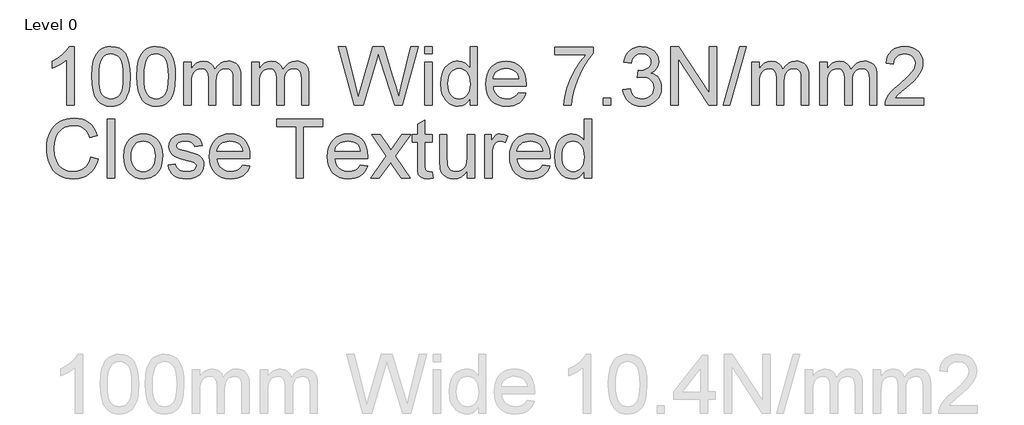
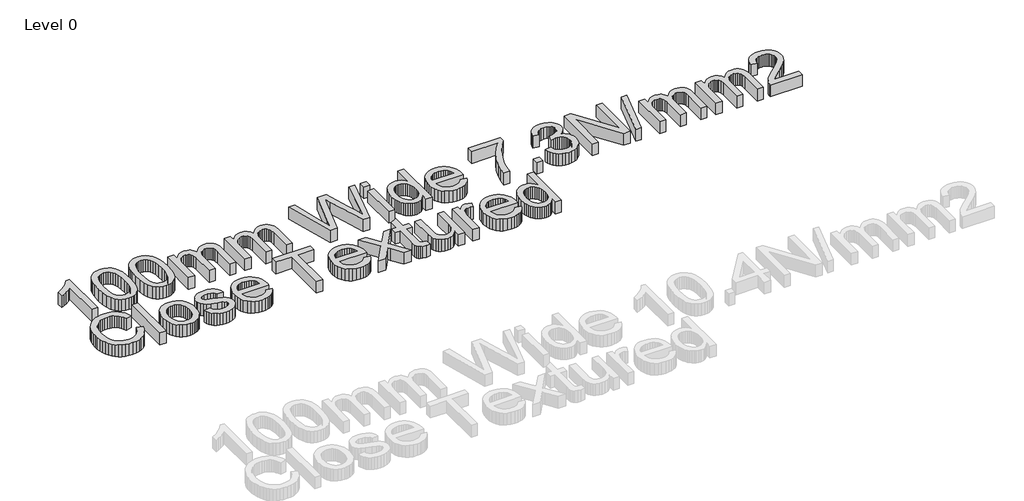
# One storey, part 3 of 14: 1 proxy.
"""IFC4 building model written with IfcOpenShell, lengths in millimetres."""

from ifc_helpers import new_model, si_unit, origin, origin_with_axes, place, context, project, spatial, polyline, outline, extrude, element, save

model = new_model("IFC4")

# Units and contexts
model_context = context("Model", 3, world=origin())
ifc_project = project(units=[si_unit("LENGTHUNIT", "METRE", prefix="MILLI")], contexts=[model_context])

# Site, building, storey
site = spatial("IfcSite", under=ifc_project)
building = spatial("IfcBuilding", under=site)
storey = spatial("IfcBuildingStorey", under=building, Name="Level 0", Elevation=0.0)

# Proxy
placement = place(None, origin())
element("IfcBuildingElementProxy", 1, Name="600mm Arial", ObjectType="600mm Arial", at=placement, inside=storey, context=model_context, shape_type="SweptSolid", body=[
    extrude(outline(polyline([(-37639.3637004, 9260.7463164), (-37713.2098543, 9260.7463164), (-37713.2098543, 9721.1309318), (-37744.0391812, 9696.1970376), (-37783.1617774, 9671.2992011), (-37824.2314889, 9649.5383838), (-37860.902162, 9634.0155472), (-37860.902162, 9703.8232395), (-37802.9033639, 9735.3737203), (-37752.6569697, 9772.909778), (-37713.0475947, 9812.8256434), (-37686.9598543, 9851.5155472), (-37639.3637004, 9851.5155472), (-37639.3637004, 9260.7463164)])), origin_with_axes(), (0.0, 0.0, 1.0), 150.0),
    extrude(outline(polyline([(-37463.979085, 9551.3713164), (-37458.5524024, 9645.9326145), (-37451.769049, 9686.0332756), (-37442.2723543, 9721.347278), (-37430.1028831, 9752.1630833), (-37415.3012004, 9778.769153), (-37397.8673062, 9801.1654871), (-37377.8012004, 9819.3520857), (-37355.0352749, 9833.4236001), (-37329.5019216, 9843.4746818), (-37301.2011403, 9849.5053309), (-37270.1329312, 9851.5155472), (-37224.6281235, 9846.7559318), (-37183.8829312, 9832.4770857), (-37149.808412, 9809.237903), (-37124.3156235, 9777.597278), (-37105.0608158, 9737.8256434), (-37089.7002389, 9690.1934318), (-37079.6401427, 9629.706653), (-37076.2867774, 9551.3713164), (-37081.6593735, 9457.3508838), (-37088.3751187, 9417.385439), (-37097.777162, 9382.1165088), (-37109.8519817, 9351.2871818), (-37124.5860562, 9324.6405472), (-37141.9793855, 9302.1766049), (-37162.0319697, 9283.8953549), (-37184.8249384, 9269.729189), (-37210.4394216, 9259.6104991), (-37238.8754192, 9253.5392852), (-37270.1329312, 9251.5155472), (-37310.8060081, 9255.0311722), (-37346.8637004, 9265.5780472), (-37378.3060081, 9283.1561722), (-37405.1329312, 9307.7655472), (-37430.8781235, 9352.2517251), (-37449.2675466, 9407.6814126), (-37460.3012004, 9474.0546097), (-37463.979085, 9551.3713164)]), holes=[polyline([(-37390.1329312, 9551.5155472), (-37387.9694697, 9487.3193333), (-37381.479085, 9435.3556914), (-37370.6617774, 9395.6246217), (-37355.5175466, 9368.1261241), (-37337.2002389, 9349.416689), (-37316.8637004, 9336.0528068), (-37294.5079312, 9328.0344775), (-37270.1329312, 9325.3617011), (-37245.7579312, 9328.0434919), (-37223.402162, 9336.0888645), (-37203.0656235, 9349.4978188), (-37184.7483158, 9368.2703549), (-37169.604085, 9395.8139246), (-37158.7867774, 9435.5359799), (-37152.2963927, 9487.4365208), (-37150.1329312, 9551.5155472), (-37152.2242774, 9614.0125424), (-37158.4983158, 9665.0612203), (-37168.9550466, 9704.6615809), (-37183.5944697, 9732.8136241), (-37201.605287, 9752.4380232), (-37222.1762004, 9766.4554511), (-37245.30721, 9774.8659078), (-37270.9983158, 9777.6693934), (-37295.2471139, 9775.1994414), (-37317.2242774, 9767.7895857), (-37336.9298062, 9755.4398261), (-37354.3637004, 9738.1501626), (-37370.0127389, 9707.5011241), (-37381.1906235, 9666.1790088), (-37387.8973543, 9614.1838164), (-37390.1329312, 9551.5155472)])]), origin_with_axes(), (0.0, 0.0, 1.0), 150.0),
    extrude(outline(polyline([(-37011.6713927, 9551.3713164), (-37006.24471, 9645.9326145), (-36999.4613567, 9686.0332756), (-36989.964662, 9721.347278), (-36977.7951908, 9752.1630833), (-36962.9935081, 9778.769153), (-36945.5596139, 9801.1654871), (-36925.4935081, 9819.3520857), (-36902.7275826, 9833.4236001), (-36877.1942293, 9843.4746818), (-36848.893448, 9849.5053309), (-36817.8252389, 9851.5155472), (-36772.3204312, 9846.7559318), (-36731.5752389, 9832.4770857), (-36697.5007197, 9809.237903), (-36672.0079312, 9777.597278), (-36652.7531235, 9737.8256434), (-36637.3925466, 9690.1934318), (-36627.3324504, 9629.706653), (-36623.979085, 9551.3713164), (-36629.3516812, 9457.3508838), (-36636.0674264, 9417.385439), (-36645.4694697, 9382.1165088), (-36657.5442894, 9351.2871818), (-36672.2783639, 9324.6405472), (-36689.6716932, 9302.1766049), (-36709.7242774, 9283.8953549), (-36732.5172461, 9269.729189), (-36758.1317293, 9259.6104991), (-36786.5677269, 9253.5392852), (-36817.8252389, 9251.5155472), (-36858.4983158, 9255.0311722), (-36894.5560081, 9265.5780472), (-36925.9983158, 9283.1561722), (-36952.8252389, 9307.7655472), (-36978.5704312, 9352.2517251), (-36996.9598543, 9407.6814126), (-37007.9935081, 9474.0546097), (-37011.6713927, 9551.3713164)]), holes=[polyline([(-36937.8252389, 9551.5155472), (-36935.6617774, 9487.3193333), (-36929.1713927, 9435.3556914), (-36918.354085, 9395.6246217), (-36903.2098543, 9368.1261241), (-36884.8925466, 9349.416689), (-36864.5560081, 9336.0528068), (-36842.2002389, 9328.0344775), (-36817.8252389, 9325.3617011), (-36793.4502389, 9328.0434919), (-36771.0944697, 9336.0888645), (-36750.7579312, 9349.4978188), (-36732.4406235, 9368.2703549), (-36717.2963927, 9395.8139246), (-36706.479085, 9435.5359799), (-36699.9887004, 9487.4365208), (-36697.8252389, 9551.5155472), (-36699.916585, 9614.0125424), (-36706.1906235, 9665.0612203), (-36716.6473543, 9704.6615809), (-36731.2867774, 9732.8136241), (-36749.2975947, 9752.4380232), (-36769.8685081, 9766.4554511), (-36792.9995177, 9774.8659078), (-36818.6906235, 9777.6693934), (-36842.9394216, 9775.1994414), (-36864.916585, 9767.7895857), (-36884.6221139, 9755.4398261), (-36902.0560081, 9738.1501626), (-36917.7050466, 9707.5011241), (-36928.8829312, 9666.1790088), (-36935.589662, 9614.1838164), (-36937.8252389, 9551.5155472)])]), origin_with_axes(), (0.0, 0.0, 1.0), 150.0),
    extrude(outline(polyline([(-36540.902162, 9260.7463164), (-36540.902162, 9694.5924703), (-36467.0560081, 9694.5924703), (-36467.0560081, 9623.1982395), (-36444.8444697, 9655.9927107), (-36416.2867774, 9681.6838164), (-36382.3564889, 9698.2883838), (-36344.027162, 9703.8232395), (-36302.9574504, 9698.1802107), (-36285.4784841, 9691.1264246), (-36270.0367774, 9681.2511241), (-36245.4454312, 9654.1537684), (-36229.3637004, 9618.0059318), (-36202.4466331, 9655.5510039), (-36171.7435081, 9682.3689126), (-36137.2543254, 9698.4596578), (-36098.979085, 9703.8232395), (-36069.4162846, 9701.5921698), (-36043.4682677, 9694.8989607), (-36021.1350346, 9683.7436121), (-36002.416585, 9668.1261241), (-35987.6194096, 9647.8662083), (-35977.0499985, 9622.7835761), (-35970.7083519, 9592.8782275), (-35968.5944697, 9558.1501626), (-35968.5944697, 9260.7463164), (-36042.4406235, 9260.7463164), (-36042.4406235, 9526.4193934), (-36044.1533639, 9563.2523261), (-36049.291585, 9588.0780472), (-36058.9189889, 9605.0792491), (-36074.0992774, 9618.4386241), (-36093.6245177, 9627.0924703), (-36116.2867774, 9629.9770857), (-36137.2137605, 9628.1291289), (-36156.292787, 9622.5852588), (-36173.5238567, 9613.3454751), (-36188.9069697, 9600.409778), (-36201.5587124, 9583.3995616), (-36210.5956716, 9561.9362203), (-36216.0178471, 9536.0197539), (-36217.8252389, 9505.6501626), (-36217.8252389, 9260.7463164), (-36291.6713927, 9260.7463164), (-36291.6713927, 9534.6405472), (-36295.9442293, 9576.3953549), (-36308.7627389, 9606.1790088), (-36318.6740971, 9616.5906674), (-36331.3168254, 9624.0275664), (-36346.690924, 9628.4897059), (-36364.7963927, 9629.9770857), (-36393.245912, 9626.0107395), (-36419.4598543, 9614.1117011), (-36441.0944697, 9594.5684318), (-36455.8060081, 9567.6693934), (-36464.2435081, 9530.3496818), (-36467.0560081, 9479.5443934), (-36467.0560081, 9260.7463164), (-36540.902162, 9260.7463164)])), origin_with_axes(), (0.0, 0.0, 1.0), 150.0),
    extrude(outline(polyline([(-35857.8252389, 9260.7463164), (-35857.8252389, 9694.5924703), (-35783.979085, 9694.5924703), (-35783.979085, 9623.1982395), (-35761.7675466, 9655.9927107), (-35733.2098543, 9681.6838164), (-35699.2795658, 9698.2883838), (-35660.9502389, 9703.8232395), (-35619.8805274, 9698.1802107), (-35602.401561, 9691.1264246), (-35586.9598543, 9681.2511241), (-35562.3685081, 9654.1537684), (-35546.2867774, 9618.0059318), (-35519.36971, 9655.5510039), (-35488.666585, 9682.3689126), (-35454.1774024, 9698.4596578), (-35415.902162, 9703.8232395), (-35386.3393615, 9701.5921698), (-35360.3913447, 9694.8989607), (-35338.0581115, 9683.7436121), (-35319.339662, 9668.1261241), (-35304.5424865, 9647.8662083), (-35293.9730754, 9622.7835761), (-35287.6314288, 9592.8782275), (-35285.5175466, 9558.1501626), (-35285.5175466, 9260.7463164), (-35359.3637004, 9260.7463164), (-35359.3637004, 9526.4193934), (-35361.0764408, 9563.2523261), (-35366.214662, 9588.0780472), (-35375.8420658, 9605.0792491), (-35391.0223543, 9618.4386241), (-35410.5475947, 9627.0924703), (-35433.2098543, 9629.9770857), (-35454.1368374, 9628.1291289), (-35473.2158639, 9622.5852588), (-35490.4469336, 9613.3454751), (-35505.8300466, 9600.409778), (-35518.4817894, 9583.3995616), (-35527.5187485, 9561.9362203), (-35532.940924, 9536.0197539), (-35534.7483158, 9505.6501626), (-35534.7483158, 9260.7463164), (-35608.5944697, 9260.7463164), (-35608.5944697, 9534.6405472), (-35612.8673062, 9576.3953549), (-35625.6858158, 9606.1790088), (-35635.597174, 9616.5906674), (-35648.2399024, 9624.0275664), (-35663.6140009, 9628.4897059), (-35681.7194697, 9629.9770857), (-35710.1689889, 9626.0107395), (-35736.3829312, 9614.1117011), (-35758.0175466, 9594.5684318), (-35772.729085, 9567.6693934), (-35781.166585, 9530.3496818), (-35783.979085, 9479.5443934), (-35783.979085, 9260.7463164), (-35857.8252389, 9260.7463164)])), origin_with_axes(), (0.0, 0.0, 1.0), 150.0),
    extrude(outline(polyline([(-34829.027162, 9260.7463164), (-34990.1329312, 9851.5155472), (-34913.979085, 9851.5155472), (-34820.5175466, 9463.2463164), (-34791.6713927, 9343.3905472), (-34760.8060081, 9449.4001626), (-34643.6906235, 9851.5155472), (-34533.9310081, 9851.5155472), (-34448.8348543, 9560.0251626), (-34412.3805274, 9451.8520857), (-34385.5175466, 9343.3905472), (-34357.5367774, 9459.784778), (-34263.2098543, 9851.5155472), (-34187.0560081, 9851.5155472), (-34348.3060081, 9260.7463164), (-34427.2002389, 9260.7463164), (-34568.8348543, 9716.5155472), (-34588.5944697, 9780.1213164), (-34610.8060081, 9703.534778), (-34739.8925466, 9260.7463164), (-34829.027162, 9260.7463164)])), origin_with_axes(), (0.0, 0.0, 1.0), 150.0),
    extrude(outline(polyline([(-34122.4406235, 9260.7463164), (-34122.4406235, 9694.5924703), (-34048.5944697, 9694.5924703), (-34048.5944697, 9260.7463164), (-34122.4406235, 9260.7463164)])), origin_with_axes(), (0.0, 0.0, 1.0), 150.0),
    extrude(outline(polyline([(-34122.4406235, 9777.6693934), (-34122.4406235, 9851.5155472), (-34048.5944697, 9851.5155472), (-34048.5944697, 9777.6693934), (-34122.4406235, 9777.6693934)])), origin_with_axes(), (0.0, 0.0, 1.0), 150.0),
    extrude(outline(polyline([(-33670.1329312, 9260.7463164), (-33670.1329312, 9330.409778), (-33692.2272822, 9295.893552), (-33718.9911043, 9271.2391049), (-33750.4243975, 9256.4464366), (-33786.527162, 9251.5155472), (-33810.902162, 9253.300403), (-33834.2675466, 9258.6549703), (-33856.6233158, 9267.5792491), (-33877.9694697, 9280.0732395), (-33897.6389408, 9295.7628429), (-33914.964662, 9314.2739607), (-33929.9466331, 9335.6065929), (-33942.5848543, 9359.7607395), (-33952.6179072, 9386.276665), (-33959.7843735, 9414.6946338), (-33965.5175466, 9477.2367011), (-33960.2350947, 9539.003528), (-33944.3877389, 9594.784778), (-33932.5067293, 9619.6375424), (-33917.9935081, 9641.4073741), (-33900.8480754, 9660.0942732), (-33881.0704312, 9675.6982395), (-33859.3591932, 9688.002927), (-33836.4129793, 9696.7919895), (-33812.2317894, 9702.065427), (-33786.8156235, 9703.8232395), (-33750.6858158, 9698.7931914), (-33718.7387004, 9683.7030472), (-33691.6593735, 9660.5720376), (-33670.1329312, 9631.4193934), (-33670.1329312, 9851.5155472), (-33596.2867774, 9851.5155472), (-33596.2867774, 9260.7463164), (-33670.1329312, 9260.7463164)]), holes=[polyline([(-33891.6713927, 9477.5251626), (-33889.589061, 9441.7153669), (-33883.3420658, 9410.7282876), (-33872.9304072, 9384.5639246), (-33858.354085, 9363.222278), (-33840.9472341, 9346.6582756), (-33822.0439889, 9334.8268453), (-33801.6443495, 9327.7279871), (-33779.7483158, 9325.3617011), (-33757.7486163, 9327.619814), (-33737.4706716, 9334.394153), (-33718.9144817, 9345.6847179), (-33702.0800466, 9361.4915088), (-33688.1031836, 9381.9407275), (-33678.11971, 9407.1585761), (-33672.1296259, 9437.1450544), (-33670.1329312, 9471.9001626), (-33672.1656836, 9510.0041289), (-33678.2639408, 9542.6814126), (-33688.4277028, 9569.9320136), (-33702.6569697, 9591.7559318), (-33719.8609961, 9608.4776866), (-33738.949037, 9620.4217972), (-33759.9210923, 9627.5882636), (-33782.777162, 9629.9770857), (-33805.1058879, 9627.682915), (-33825.5055274, 9620.800403), (-33843.9760802, 9609.3295496), (-33860.5175466, 9593.2703549), (-33874.1473543, 9572.2712563), (-33883.8829312, 9545.9806914), (-33889.7242774, 9514.3986602), (-33891.6713927, 9477.5251626)])]), origin_with_axes(), (0.0, 0.0, 1.0), 150.0),
    extrude(outline(polyline([(-33181.7675466, 9389.9770857), (-33109.3637004, 9380.7463164), (-33120.4649624, 9351.7469174), (-33135.4514408, 9326.191028), (-33154.3231355, 9304.0786482), (-33177.0800466, 9285.409778), (-33203.487799, 9270.581052), (-33233.3120177, 9259.9891049), (-33266.5527028, 9253.6339366), (-33303.2098543, 9251.5155472), (-33349.0301668, 9255.1708958), (-33389.8564889, 9266.1369414), (-33425.6888206, 9284.4136842), (-33456.527162, 9310.0011241), (-33481.3258399, 9342.1871217), (-33499.0391812, 9380.2595376), (-33509.667186, 9424.2183717), (-33513.2098543, 9474.0636241), (-33509.6311283, 9525.5990809), (-33498.8949504, 9571.0227588), (-33481.0013206, 9610.3346578), (-33455.9502389, 9643.534778), (-33425.1930274, 9669.9109799), (-33390.1810081, 9688.7511241), (-33350.9141812, 9700.0552107), (-33307.3925466, 9703.8232395), (-33265.2726548, 9700.0642251), (-33227.18221, 9688.7871818), (-33193.1212124, 9669.9921097), (-33163.089662, 9643.6790088), (-33138.5749384, 9610.5510039), (-33121.0644216, 9571.3112203), (-33110.5581115, 9525.9596578), (-33107.0560081, 9474.4963164), (-33107.4887004, 9454.5924703), (-33439.3637004, 9454.5924703), (-33435.0863567, 9425.1243213), (-33426.5812485, 9399.316028), (-33413.8483759, 9377.1675905), (-33396.8877389, 9358.6790088), (-33376.6368374, 9344.1026866), (-33354.0331716, 9333.691028), (-33329.0767413, 9327.4440328), (-33301.7675466, 9325.3617011), (-33262.464662, 9329.2198741), (-33229.3637004, 9340.7943934), (-33202.464662, 9360.8064126), (-33181.7675466, 9389.9770857)]), holes=[polyline([(-33439.3637004, 9528.4386241), (-33180.902162, 9528.4386241), (-33190.8901427, 9567.4530472), (-33199.4808879, 9582.7955953), (-33210.4694697, 9595.3617011), (-33230.6076908, 9610.5059318), (-33253.5223543, 9621.3232395), (-33279.21346, 9627.8136241), (-33307.6810081, 9629.9770857), (-33333.6470538, 9628.2508237), (-33357.4586524, 9623.0720376), (-33379.1158038, 9614.4407275), (-33398.6185081, 9602.3568934), (-33414.9841932, 9587.3794294), (-33427.230287, 9570.0672299), (-33435.3567894, 9550.4202948), (-33439.3637004, 9528.4386241)])]), origin_with_axes(), (0.0, 0.0, 1.0), 150.0),
    extrude(outline(polyline([(-32820.902162, 9768.4386241), (-32820.902162, 9842.284778), (-32433.2098543, 9842.284778), (-32433.2098543, 9782.5732395), (-32488.4682677, 9712.6393453), (-32543.1858158, 9623.7030472), (-32591.449037, 9523.8773261), (-32627.3444697, 9421.2751626), (-32644.9406235, 9344.5083357), (-32654.7483158, 9260.7463164), (-32728.5944697, 9260.7463164), (-32720.6076908, 9336.8641049), (-32699.2435081, 9427.3328549), (-32665.0788447, 9523.2282876), (-32618.6906235, 9615.6261241), (-32564.5319697, 9699.1537684), (-32507.0560081, 9768.4386241), (-32820.902162, 9768.4386241)])), origin_with_axes(), (0.0, 0.0, 1.0), 150.0),
    extrude(outline(polyline([(-32331.6713927, 9260.7463164), (-32331.6713927, 9334.5924703), (-32257.8252389, 9334.5924703), (-32257.8252389, 9260.7463164), (-32331.6713927, 9260.7463164)])), origin_with_axes(), (0.0, 0.0, 1.0), 150.0),
    extrude(outline(polyline([(-32137.8252389, 9417.6693934), (-32063.979085, 9426.9001626), (-32047.4466331, 9380.4939126), (-32036.300299, 9362.9428309), (-32023.2338927, 9349.159778), (-32007.9499384, 9338.7481193), (-31990.15096, 9331.3112203), (-31969.8369576, 9326.8490809), (-31947.0079312, 9325.3617011), (-31920.2531235, 9327.4079751), (-31896.3829312, 9333.5467972), (-31875.3973543, 9343.7781674), (-31857.2963927, 9358.1020857), (-31842.7200706, 9375.4458357), (-31832.308412, 9394.7367011), (-31826.0614168, 9415.9746818), (-31823.979085, 9439.159778), (-31826.0433879, 9461.2406073), (-31832.2362966, 9481.3292491), (-31842.557811, 9499.4257035), (-31857.0079312, 9515.5299703), (-31874.6401427, 9528.7496217), (-31894.5079312, 9538.1922299), (-31916.6112966, 9543.8577948), (-31940.9502389, 9545.7463164), (-31964.2795658, 9543.7270857), (-31992.729085, 9537.6693934), (-31984.5079312, 9611.5155472), (-31972.6810081, 9610.6501626), (-31928.4382197, 9615.9506434), (-31888.8829312, 9631.8520857), (-31872.6028831, 9643.8773261), (-31860.9742774, 9658.7511241), (-31853.9971139, 9676.4734799), (-31851.6713927, 9697.0443934), (-31853.3570899, 9713.7436121), (-31858.4141812, 9728.9374222), (-31866.8426668, 9742.6258237), (-31878.6425466, 9754.8088164), (-31893.1016812, 9764.8103188), (-31909.5079312, 9771.9542491), (-31948.1617774, 9777.6693934), (-31986.8877389, 9771.9001626), (-32003.6004793, 9764.6886241), (-32018.5463927, 9754.5924703), (-32031.3558879, 9741.6117011), (-32041.6593735, 9725.7463164), (-32049.4568495, 9706.9963164), (-32054.7483158, 9685.3617011), (-32128.5944697, 9694.5924703), (-32119.8414649, 9729.8478789), (-32106.8516812, 9760.9025664), (-32089.6251187, 9787.7565328), (-32068.1617774, 9810.409778), (-32043.1377389, 9828.393552), (-32015.229085, 9841.2391049), (-31984.4358158, 9848.9464366), (-31950.7579312, 9851.5155472), (-31904.3336524, 9846.4494414), (-31861.6954312, 9831.2511241), (-31825.745912, 9807.2727588), (-31799.3877389, 9775.8665088), (-31783.2158639, 9739.6826145), (-31777.8252389, 9701.3713164), (-31782.9454312, 9665.6742011), (-31798.3060081, 9633.2943934), (-31823.6906235, 9605.7102588), (-31858.8829312, 9584.4001626), (-31834.2735562, 9576.7018453), (-31812.6569697, 9565.722278), (-31794.0331716, 9551.4614607), (-31778.402162, 9533.9193934), (-31766.0343735, 9513.5287684), (-31757.2002389, 9490.722278), (-31751.8997581, 9465.4999222), (-31750.1329312, 9437.8617011), (-31753.666585, 9400.3977588), (-31764.2675466, 9365.8905472), (-31781.9358158, 9334.3400664), (-31806.6713927, 9305.7463164), (-31836.8066091, 9282.0203549), (-31870.6737966, 9265.0732395), (-31908.2729552, 9254.9049703), (-31949.604085, 9251.5155472), (-31986.9598543, 9254.409177), (-32020.9983158, 9263.0900664), (-32051.7194697, 9277.5582155), (-32079.1233158, 9297.8136241), (-32102.1010802, 9322.6663886), (-32119.5439889, 9350.9266049), (-32131.4520418, 9382.5942732), (-32137.8252389, 9417.6693934)])), origin_with_axes(), (0.0, 0.0, 1.0), 150.0),
    extrude(outline(polyline([(-31657.8252389, 9260.7463164), (-31657.8252389, 9851.5155472), (-31578.7867774, 9851.5155472), (-31270.1329312, 9383.4867011), (-31270.1329312, 9851.5155472), (-31196.2867774, 9851.5155472), (-31196.2867774, 9260.7463164), (-31275.3252389, 9260.7463164), (-31583.979085, 9728.9193934), (-31583.979085, 9260.7463164), (-31657.8252389, 9260.7463164)])), origin_with_axes(), (0.0, 0.0, 1.0), 150.0),
    extrude(outline(polyline([(-31131.6713927, 9260.7463164), (-30965.5175466, 9851.5155472), (-30898.8829312, 9851.5155472), (-31065.0367774, 9260.7463164), (-31131.6713927, 9260.7463164)])), origin_with_axes(), (0.0, 0.0, 1.0), 150.0),
    extrude(outline(polyline([(-30845.5175466, 9260.7463164), (-30845.5175466, 9694.5924703), (-30771.6713927, 9694.5924703), (-30771.6713927, 9623.1982395), (-30749.4598543, 9655.9927107), (-30720.902162, 9681.6838164), (-30686.9718735, 9698.2883838), (-30648.6425466, 9703.8232395), (-30607.572835, 9698.1802107), (-30590.0938687, 9691.1264246), (-30574.652162, 9681.2511241), (-30550.0608158, 9654.1537684), (-30533.979085, 9618.0059318), (-30507.0620177, 9655.5510039), (-30476.3588927, 9682.3689126), (-30441.86971, 9698.4596578), (-30403.5944697, 9703.8232395), (-30374.0316692, 9701.5921698), (-30348.0836524, 9694.8989607), (-30325.7504192, 9683.7436121), (-30307.0319697, 9668.1261241), (-30292.2347942, 9647.8662083), (-30281.6653831, 9622.7835761), (-30275.3237365, 9592.8782275), (-30273.2098543, 9558.1501626), (-30273.2098543, 9260.7463164), (-30347.0560081, 9260.7463164), (-30347.0560081, 9526.4193934), (-30348.7687485, 9563.2523261), (-30353.9069697, 9588.0780472), (-30363.5343735, 9605.0792491), (-30378.714662, 9618.4386241), (-30398.2399024, 9627.0924703), (-30420.902162, 9629.9770857), (-30441.8291451, 9628.1291289), (-30460.9081716, 9622.5852588), (-30478.1392413, 9613.3454751), (-30493.5223543, 9600.409778), (-30506.1740971, 9583.3995616), (-30515.2110562, 9561.9362203), (-30520.6332317, 9536.0197539), (-30522.4406235, 9505.6501626), (-30522.4406235, 9260.7463164), (-30596.2867774, 9260.7463164), (-30596.2867774, 9534.6405472), (-30600.5596139, 9576.3953549), (-30613.3781235, 9606.1790088), (-30623.2894817, 9616.5906674), (-30635.93221, 9624.0275664), (-30651.3063086, 9628.4897059), (-30669.4117774, 9629.9770857), (-30697.8612966, 9626.0107395), (-30724.0752389, 9614.1117011), (-30745.7098543, 9594.5684318), (-30760.4213927, 9567.6693934), (-30768.8588927, 9530.3496818), (-30771.6713927, 9479.5443934), (-30771.6713927, 9260.7463164), (-30845.5175466, 9260.7463164)])), origin_with_axes(), (0.0, 0.0, 1.0), 150.0),
    extrude(outline(polyline([(-30162.4406235, 9260.7463164), (-30162.4406235, 9694.5924703), (-30088.5944697, 9694.5924703), (-30088.5944697, 9623.1982395), (-30066.3829312, 9655.9927107), (-30037.8252389, 9681.6838164), (-30003.8949504, 9698.2883838), (-29965.5656235, 9703.8232395), (-29924.495912, 9698.1802107), (-29907.0169456, 9691.1264246), (-29891.5752389, 9681.2511241), (-29866.9838927, 9654.1537684), (-29850.902162, 9618.0059318), (-29823.9850947, 9655.5510039), (-29793.2819697, 9682.3689126), (-29758.792787, 9698.4596578), (-29720.5175466, 9703.8232395), (-29690.9547461, 9701.5921698), (-29665.0067293, 9694.8989607), (-29642.6734961, 9683.7436121), (-29623.9550466, 9668.1261241), (-29609.1578711, 9647.8662083), (-29598.58846, 9622.7835761), (-29592.2468134, 9592.8782275), (-29590.1329312, 9558.1501626), (-29590.1329312, 9260.7463164), (-29663.979085, 9260.7463164), (-29663.979085, 9526.4193934), (-29665.6918254, 9563.2523261), (-29670.8300466, 9588.0780472), (-29680.4574504, 9605.0792491), (-29695.6377389, 9618.4386241), (-29715.1629793, 9627.0924703), (-29737.8252389, 9629.9770857), (-29758.7522221, 9628.1291289), (-29777.8312485, 9622.5852588), (-29795.0623182, 9613.3454751), (-29810.4454312, 9600.409778), (-29823.097174, 9583.3995616), (-29832.1341331, 9561.9362203), (-29837.5563086, 9536.0197539), (-29839.3637004, 9505.6501626), (-29839.3637004, 9260.7463164), (-29913.2098543, 9260.7463164), (-29913.2098543, 9534.6405472), (-29917.4826908, 9576.3953549), (-29930.3012004, 9606.1790088), (-29940.2125586, 9616.5906674), (-29952.855287, 9624.0275664), (-29968.2293855, 9628.4897059), (-29986.3348543, 9629.9770857), (-30014.7843735, 9626.0107395), (-30040.9983158, 9614.1117011), (-30062.6329312, 9594.5684318), (-30077.3444697, 9567.6693934), (-30085.7819697, 9530.3496818), (-30088.5944697, 9479.5443934), (-30088.5944697, 9260.7463164), (-30162.4406235, 9260.7463164)])), origin_with_axes(), (0.0, 0.0, 1.0), 150.0),
    extrude(outline(polyline([(-29119.3637004, 9334.5924703), (-29119.3637004, 9260.7463164), (-29507.0560081, 9260.7463164), (-29505.433412, 9286.7439126), (-29499.1233158, 9311.659778), (-29480.9141812, 9351.4494414), (-29454.2675466, 9390.0492011), (-29415.7218735, 9430.4518453), (-29361.8156235, 9475.6501626), (-29282.1281235, 9546.4314126), (-29234.3156235, 9598.6790088), (-29220.370311, 9620.0251626), (-29210.4093735, 9641.0828549), (-29204.432811, 9661.8520857), (-29202.4406235, 9682.3328549), (-29204.3201307, 9701.6011842), (-29209.9586524, 9719.3100184), (-29219.3561884, 9735.4593573), (-29232.5127389, 9750.0492011), (-29248.6981355, 9762.1330352), (-29267.18221, 9770.7643453), (-29287.9649624, 9775.9431313), (-29311.0463927, 9777.6693934), (-29335.362799, 9775.9836963), (-29357.1100947, 9770.9266049), (-29376.2882798, 9762.4981193), (-29392.8973543, 9750.6982395), (-29406.3333519, 9735.9236001), (-29415.9923062, 9718.5708357), (-29421.8742173, 9698.6399463), (-29423.979085, 9676.1309318), (-29497.8252389, 9685.3617011), (-29491.4745778, 9723.4836963), (-29479.9225947, 9756.7919895), (-29463.1692894, 9785.2865809), (-29441.214662, 9808.9674703), (-29414.5635201, 9827.5822539), (-29383.7206716, 9840.878528), (-29348.6861163, 9848.8562924), (-29309.4598543, 9851.5155472), (-29269.8820298, 9848.5588164), (-29234.6581716, 9839.6886241), (-29203.7882798, 9824.9049703), (-29177.2723543, 9804.2078549), (-29155.9757798, 9779.1297299), (-29140.7639408, 9751.2030472), (-29131.6368374, 9720.4278068), (-29128.5944697, 9686.8040088), (-29131.8757197, 9651.4854991), (-29141.7194697, 9616.7799703), (-29159.1894216, 9581.4794895), (-29185.3492774, 9544.3761241), (-29227.0499985, 9500.0792491), (-29291.1425466, 9443.1982395), (-29376.0944697, 9372.1645857), (-29409.4117774, 9334.5924703), (-29119.3637004, 9334.5924703)])), origin_with_axes(), (0.0, 0.0, 1.0), 150.0),
    extrude(outline(polyline([(-37473.2098543, 8741.5155472), (-37399.3637004, 8722.4770857), (-37413.9760802, 8676.5531073), (-37433.4382197, 8636.425403), (-37457.7501187, 8602.0939727), (-37486.9117774, 8573.5588164), (-37520.2651427, 8551.1264246), (-37557.152162, 8535.1032876), (-37597.572835, 8525.4894054), (-37641.527162, 8522.284778), (-37686.5587124, 8524.7096578), (-37727.18221, 8531.9842972), (-37763.3976548, 8544.1086963), (-37795.2050466, 8561.0828549), (-37823.041585, 8582.6543693), (-37847.3444697, 8608.5708357), (-37868.1137004, 8638.8322539), (-37885.3492774, 8673.4386241), (-37898.8844336, 8710.893552), (-37908.5524024, 8749.7006434), (-37914.3531836, 8789.8598982), (-37916.2867774, 8831.3713164), (-37914.1007798, 8875.9115809), (-37907.542787, 8917.5131434), (-37896.612799, 8956.1760039), (-37881.3108158, 8991.9001626), (-37861.9793855, 9024.0951746), (-37838.9610562, 9052.1705953), (-37812.2558278, 9076.1264246), (-37781.8637004, 9095.9626626), (-37748.8168254, 9111.5170496), (-37714.1473543, 9122.6273261), (-37677.855287, 9129.2934919), (-37639.9406235, 9131.5155472), (-37597.7035442, 9128.6399463), (-37558.9730754, 9120.0131434), (-37523.7492173, 9105.6351386), (-37492.0319697, 9085.5059318), (-37464.3441692, 9060.1573741), (-37441.2086524, 9030.1213164), (-37422.6254192, 8995.3977588), (-37408.5944697, 8955.9867011), (-37482.4406235, 8938.3905472), (-37494.0692293, 8967.4305112), (-37508.041585, 8992.2427107), (-37524.3576908, 9012.8271458), (-37543.0175466, 9029.1838164), (-37564.1293254, 9041.6462563), (-37587.8012004, 9050.5479991), (-37614.0331716, 9055.8890448), (-37642.8252389, 9057.6693934), (-37675.9532437, 9055.6952347), (-37706.2507197, 9049.7727588), (-37733.7176668, 9039.9019655), (-37758.354085, 9026.0828549), (-37779.8489769, 9008.9374222), (-37797.8913447, 8989.0876626), (-37812.4811884, 8966.5335761), (-37823.6185081, 8941.2751626), (-37837.7350947, 8887.2246818), (-37842.4406235, 8831.5155472), (-37836.86971, 8763.2943934), (-37829.9060682, 8732.6453549), (-37820.1569697, 8704.3040088), (-37807.464662, 8678.8337563), (-37791.6713927, 8656.7979991), (-37772.777162, 8638.1967371), (-37750.7819697, 8623.0299703), (-37726.7540249, 8611.261641), (-37701.761537, 8602.8556914), (-37675.8045057, 8597.8121217), (-37648.8829312, 8596.1309318), (-37616.7780634, 8598.4205953), (-37587.2423062, 8605.2895857), (-37560.2756596, 8616.737903), (-37535.8781235, 8632.7655472), (-37514.6266211, 8653.300403), (-37497.0980754, 8678.2703549), (-37483.2924865, 8707.675403), (-37473.2098543, 8741.5155472)])), origin_with_axes(), (0.0, 0.0, 1.0), 150.0),
    extrude(outline(polyline([(-37307.0560081, 8531.5155472), (-37307.0560081, 9122.284778), (-37233.2098543, 9122.284778), (-37233.2098543, 8531.5155472), (-37307.0560081, 8531.5155472)])), origin_with_axes(), (0.0, 0.0, 1.0), 150.0),
    extrude(outline(polyline([(-37140.902162, 8748.4386241), (-37136.9087725, 8804.6255232), (-37124.9286043, 8853.0419895), (-37104.9616572, 8893.6880232), (-37077.0079312, 8926.5636241), (-37048.8649024, 8947.5762443), (-37017.8012004, 8962.5852588), (-36983.8168254, 8971.5906674), (-36946.9117774, 8974.5924703), (-36906.1710923, 8970.9371217), (-36869.3336524, 8959.9710761), (-36836.3994576, 8941.6943333), (-36807.3685081, 8916.1068934), (-36783.6740971, 8884.074141), (-36766.7495177, 8846.4614607), (-36756.5947701, 8803.2688525), (-36753.2098543, 8754.4963164), (-36754.7062485, 8714.9680713), (-36759.1954312, 8679.8929511), (-36766.6774024, 8649.2709559), (-36777.152162, 8623.1020857), (-36790.4890009, 8600.4984198), (-36806.55721, 8580.5720376), (-36825.3567894, 8563.322939), (-36846.8877389, 8548.7511241), (-36870.3117173, 8537.1720977), (-36894.7903831, 8528.9013645), (-36920.3237365, 8523.9389246), (-36946.9117774, 8522.284778), (-36988.2474144, 8525.9266049), (-37025.4274024, 8536.8520857), (-37058.4517413, 8555.0612203), (-37087.3204312, 8580.5540088), (-37110.7624384, 8612.8977588), (-37127.5067293, 8651.659778), (-37137.5533038, 8696.8400664), (-37140.902162, 8748.4386241)]), holes=[polyline([(-37067.0560081, 8748.5828549), (-37064.9195899, 8712.7640448), (-37058.510335, 8681.7499222), (-37047.8282437, 8655.5404871), (-37032.8733158, 8634.1357395), (-37014.68221, 8617.5086362), (-36994.291585, 8605.6321338), (-36971.7014408, 8598.5062323), (-36946.9117774, 8596.1309318), (-36922.2483158, 8598.5197539), (-36899.7483158, 8605.6862203), (-36879.4117774, 8617.6303309), (-36861.2387004, 8634.3520857), (-36846.2837725, 8655.9686722), (-36835.6016812, 8682.597278), (-36829.1924264, 8714.237903), (-36827.0560081, 8750.8905472), (-36829.205948, 8785.57354), (-36835.6557677, 8815.7763645), (-36846.4054673, 8841.4990208), (-36861.4550466, 8862.7415088), (-36879.6957317, 8879.3686121), (-36900.0187485, 8891.2451145), (-36922.4240971, 8898.371016), (-36946.9117774, 8900.7463164), (-36971.7014408, 8898.3800304), (-36994.291585, 8891.2811722), (-37014.68221, 8879.4497419), (-37032.8733158, 8862.8857395), (-37047.8282437, 8841.5440929), (-37058.510335, 8815.3797299), (-37064.9195899, 8784.3926506), (-37067.0560081, 8748.5828549)])]), origin_with_axes(), (0.0, 0.0, 1.0), 150.0),
    extrude(outline(polyline([(-36697.8252389, 8660.7463164), (-36623.979085, 8669.9770857), (-36619.5169456, 8653.1381434), (-36612.3324504, 8638.3905472), (-36602.4255995, 8625.7342972), (-36589.7963927, 8615.1693934), (-36574.4087725, 8606.8400664), (-36556.2266812, 8600.8905472), (-36511.479085, 8596.1309318), (-36467.2723543, 8600.4939126), (-36450.0908639, 8605.9476386), (-36436.1906235, 8613.5828549), (-36417.8012004, 8632.5492011), (-36411.6713927, 8654.5443934), (-36413.2128591, 8664.5143453), (-36417.8372581, 8673.3665088), (-36436.3348543, 8687.7174703), (-36463.9911043, 8697.0924703), (-36512.3444697, 8708.7751626), (-36579.7362966, 8728.2643453), (-36623.5463927, 8744.9049703), (-36651.6894216, 8763.0600184), (-36672.0800466, 8787.0924703), (-36684.4658639, 8815.4698741), (-36688.5944697, 8846.659778), (-36685.277162, 8875.2715568), (-36675.3252389, 8901.6838164), (-36659.6401427, 8924.8508838), (-36639.1233158, 8943.7270857), (-36618.7326908, 8955.6080953), (-36592.1762004, 8965.5780472), (-36561.4730754, 8972.3388645), (-36528.6425466, 8974.5924703), (-36480.5776427, 8970.9686722), (-36438.7867774, 8960.097278), (-36405.1810081, 8943.0419895), (-36381.6713927, 8920.8665088), (-36366.0944697, 8891.9302107), (-36356.2867774, 8854.5924703), (-36430.1329312, 8845.3617011), (-36439.4538447, 8868.6008838), (-36457.8973543, 8886.1068934), (-36485.6437485, 8897.0864607), (-36522.8733158, 8900.7463164), (-36565.277162, 8897.2487203), (-36593.5463927, 8886.7559318), (-36609.447835, 8871.6117011), (-36614.7483158, 8854.159778), (-36612.5487966, 8842.8016049), (-36605.9502389, 8832.6693934), (-36594.6641812, 8823.6189126), (-36578.402162, 8816.3713164), (-36514.7963927, 8800.6501626), (-36406.4069697, 8765.8905472), (-36377.777162, 8749.2679511), (-36356.0704312, 8726.5155472), (-36342.386537, 8697.5612203), (-36337.8252389, 8662.3328549), (-36343.1798062, 8625.9145857), (-36359.2435081, 8591.659778), (-36385.4033639, 8562.2547299), (-36421.0463927, 8540.3857395), (-36464.0992774, 8526.8100184), (-36512.4887004, 8522.284778), (-36552.2332918, 8524.4662684), (-36586.947835, 8531.0107395), (-36616.6323302, 8541.9181914), (-36641.2867774, 8557.1886241), (-36661.4249985, 8576.7499222), (-36677.5608158, 8600.5299703), (-36689.6942293, 8628.5287684), (-36697.8252389, 8660.7463164)])), origin_with_axes(), (0.0, 0.0, 1.0), 150.0),
    extrude(outline(polyline([(-35950.9983158, 8660.7463164), (-35878.5944697, 8651.5155472), (-35889.6957317, 8622.5161482), (-35904.68221, 8596.9602588), (-35923.5539048, 8574.8478789), (-35946.3108158, 8556.1790088), (-35972.7185682, 8541.3502828), (-36002.542787, 8530.7583357), (-36035.7834721, 8524.4031674), (-36072.4406235, 8522.284778), (-36118.260936, 8525.9401265), (-36159.0872581, 8536.9061722), (-36194.9195899, 8555.182915), (-36225.7579312, 8580.7703549), (-36250.5566091, 8612.9563525), (-36268.2699504, 8651.0287684), (-36278.8979552, 8694.9876025), (-36282.4406235, 8744.8328549), (-36278.8618975, 8796.3683116), (-36268.1257197, 8841.7919895), (-36250.2320899, 8881.1038886), (-36225.1810081, 8914.3040088), (-36194.4237966, 8940.6802107), (-36159.4117774, 8959.5203549), (-36120.1449504, 8970.8244414), (-36076.6233158, 8974.5924703), (-36034.503424, 8970.8334559), (-35996.4129793, 8959.5564126), (-35962.3519817, 8940.7613405), (-35932.3204312, 8914.4482395), (-35907.8057076, 8881.3202347), (-35890.2951908, 8842.0804511), (-35879.7888807, 8796.7288886), (-35876.2867774, 8745.2655472), (-35876.7194697, 8725.3617011), (-36208.5944697, 8725.3617011), (-36204.3171259, 8695.893552), (-36195.8120177, 8670.0852588), (-36183.0791451, 8647.9368213), (-36166.1185081, 8629.4482395), (-36145.8676067, 8614.8719174), (-36123.2639408, 8604.4602588), (-36098.3075105, 8598.2132636), (-36070.9983158, 8596.1309318), (-36031.6954312, 8599.9891049), (-35998.5944697, 8611.5636241), (-35971.6954312, 8631.5756434), (-35950.9983158, 8660.7463164)]), holes=[polyline([(-36208.5944697, 8799.2078549), (-35950.1329312, 8799.2078549), (-35960.120912, 8838.222278), (-35968.7116572, 8853.5648261), (-35979.7002389, 8866.1309318), (-35999.83846, 8881.2751626), (-36022.7531235, 8892.0924703), (-36048.4442293, 8898.5828549), (-36076.9117774, 8900.7463164), (-36102.877823, 8899.0200544), (-36126.6894216, 8893.8412684), (-36148.346573, 8885.2099583), (-36167.8492774, 8873.1261241), (-36184.2149624, 8858.1486602), (-36196.4610562, 8840.8364607), (-36204.5875586, 8821.1895256), (-36208.5944697, 8799.2078549)])]), origin_with_axes(), (0.0, 0.0, 1.0), 150.0),
    extrude(outline(polyline([(-35414.7483158, 8531.5155472), (-35414.7483158, 9048.4386241), (-35608.5944697, 9048.4386241), (-35608.5944697, 9122.284778), (-35147.0560081, 9122.284778), (-35147.0560081, 9048.4386241), (-35340.902162, 9048.4386241), (-35340.902162, 8531.5155472), (-35414.7483158, 8531.5155472)])), origin_with_axes(), (0.0, 0.0, 1.0), 150.0),
    extrude(outline(polyline([(-34769.4598543, 8660.7463164), (-34697.0560081, 8651.5155472), (-34708.1572701, 8622.5161482), (-34723.1437485, 8596.9602588), (-34742.0154432, 8574.8478789), (-34764.7723543, 8556.1790088), (-34791.1801067, 8541.3502828), (-34821.0043254, 8530.7583357), (-34854.2450105, 8524.4031674), (-34890.902162, 8522.284778), (-34936.7224745, 8525.9401265), (-34977.5487966, 8536.9061722), (-35013.3811283, 8555.182915), (-35044.2194697, 8580.7703549), (-35069.0181475, 8612.9563525), (-35086.7314889, 8651.0287684), (-35097.3594937, 8694.9876025), (-35100.902162, 8744.8328549), (-35097.323436, 8796.3683116), (-35086.5872581, 8841.7919895), (-35068.6936283, 8881.1038886), (-35043.6425466, 8914.3040088), (-35012.885335, 8940.6802107), (-34977.8733158, 8959.5203549), (-34938.6064889, 8970.8244414), (-34895.0848543, 8974.5924703), (-34852.9649624, 8970.8334559), (-34814.8745177, 8959.5564126), (-34780.8135201, 8940.7613405), (-34750.7819697, 8914.4482395), (-34726.2672461, 8881.3202347), (-34708.7567293, 8842.0804511), (-34698.2504192, 8796.7288886), (-34694.7483158, 8745.2655472), (-34695.1810081, 8725.3617011), (-35027.0560081, 8725.3617011), (-35022.7786644, 8695.893552), (-35014.2735562, 8670.0852588), (-35001.5406836, 8647.9368213), (-34984.5800466, 8629.4482395), (-34964.3291451, 8614.8719174), (-34941.7254793, 8604.4602588), (-34916.769049, 8598.2132636), (-34889.4598543, 8596.1309318), (-34850.1569697, 8599.9891049), (-34817.0560081, 8611.5636241), (-34790.1569697, 8631.5756434), (-34769.4598543, 8660.7463164)]), holes=[polyline([(-35027.0560081, 8799.2078549), (-34768.5944697, 8799.2078549), (-34778.5824504, 8838.222278), (-34787.1731956, 8853.5648261), (-34798.1617774, 8866.1309318), (-34818.2999985, 8881.2751626), (-34841.214662, 8892.0924703), (-34866.9057677, 8898.5828549), (-34895.3733158, 8900.7463164), (-34921.3393615, 8899.0200544), (-34945.15096, 8893.8412684), (-34966.8081115, 8885.2099583), (-34986.3108158, 8873.1261241), (-35002.6765009, 8858.1486602), (-35014.9225947, 8840.8364607), (-35023.0490971, 8821.1895256), (-35027.0560081, 8799.2078549)])]), origin_with_axes(), (0.0, 0.0, 1.0), 150.0),
    extrude(outline(polyline([(-34667.0560081, 8531.5155472), (-34509.2675466, 8749.5924703), (-34657.8252389, 8965.3617011), (-34568.979085, 8965.3617011), (-34497.2963927, 8861.5155472), (-34463.8348543, 8812.4770857), (-34434.8444697, 8852.5732395), (-34353.2098543, 8965.3617011), (-34264.3637004, 8965.3617011), (-34420.4213927, 8749.5924703), (-34270.1329312, 8531.5155472), (-34358.979085, 8531.5155472), (-34449.4117774, 8662.6213164), (-34465.9983158, 8686.5636241), (-34578.2098543, 8531.5155472), (-34667.0560081, 8531.5155472)])), origin_with_axes(), (0.0, 0.0, 1.0), 150.0),
    extrude(outline(polyline([(-34048.5944697, 8593.1020857), (-34039.3637004, 8529.3520857), (-34094.604085, 8522.284778), (-34130.0487966, 8525.3496818), (-34156.479085, 8534.5443934), (-34175.1569697, 8548.7150664), (-34187.3444697, 8566.7078549), (-34194.0512004, 8597.6092972), (-34196.2867774, 8650.5059318), (-34196.2867774, 8891.5155472), (-34251.6713927, 8891.5155472), (-34251.6713927, 8965.3617011), (-34196.2867774, 8965.3617011), (-34196.2867774, 9070.7943934), (-34122.4406235, 9114.2078549), (-34122.4406235, 8965.3617011), (-34048.5944697, 8965.3617011), (-34048.5944697, 8891.5155472), (-34122.4406235, 8891.5155472), (-34122.4406235, 8652.6693934), (-34118.5463927, 8614.5924703), (-34105.9262004, 8601.1068934), (-34095.2711524, 8597.3749222), (-34080.7579312, 8596.1309318), (-34048.5944697, 8593.1020857)])), origin_with_axes(), (0.0, 0.0, 1.0), 150.0),
    extrude(outline(polyline([(-33697.8252389, 8531.5155472), (-33697.8252389, 8606.0828549), (-33724.5439889, 8569.4211963), (-33755.6617774, 8543.2342972), (-33791.1786043, 8527.5221578), (-33831.0944697, 8522.284778), (-33867.0620177, 8525.9626626), (-33900.541585, 8536.9963164), (-33928.6305274, 8553.5828549), (-33948.4262004, 8573.9193934), (-33961.7495177, 8598.6189126), (-33970.4213927, 8628.2943934), (-33974.7483158, 8696.9482395), (-33974.7483158, 8965.3617011), (-33900.902162, 8965.3617011), (-33900.902162, 8731.7078549), (-33899.7843735, 8684.9770857), (-33896.4310081, 8656.4193934), (-33885.667787, 8631.3052107), (-33867.2242774, 8612.2126626), (-33842.3264408, 8600.1513645), (-33812.2002389, 8596.1309318), (-33780.3432677, 8600.2415088), (-33750.541585, 8612.5732395), (-33725.9682677, 8631.9903068), (-33709.7963927, 8657.3568934), (-33700.8180274, 8692.0984799), (-33697.8252389, 8739.6405472), (-33697.8252389, 8965.3617011), (-33623.979085, 8965.3617011), (-33623.979085, 8531.5155472), (-33697.8252389, 8531.5155472)])), origin_with_axes(), (0.0, 0.0, 1.0), 150.0),
    extrude(outline(polyline([(-33522.4406235, 8531.5155472), (-33522.4406235, 8965.3617011), (-33457.8252389, 8965.3617011), (-33457.8252389, 8901.1790088), (-33433.9550466, 8938.3905472), (-33411.9598543, 8960.3136241), (-33389.8925466, 8971.0227588), (-33365.8060081, 8974.5924703), (-33329.027162, 8968.8953549), (-33291.6713927, 8951.8040088), (-33316.3348543, 8885.6020857), (-33342.2963927, 8896.9602588), (-33368.2579312, 8900.7463164), (-33390.30721, 8897.1044895), (-33410.0127389, 8886.1790088), (-33425.93221, 8868.7992011), (-33436.6233158, 8845.7943934), (-33445.6016812, 8804.5443934), (-33448.5944697, 8759.5443934), (-33448.5944697, 8531.5155472), (-33522.4406235, 8531.5155472)])), origin_with_axes(), (0.0, 0.0, 1.0), 150.0),
    extrude(outline(polyline([(-32941.7675466, 8660.7463164), (-32869.3637004, 8651.5155472), (-32880.4649624, 8622.5161482), (-32895.4514408, 8596.9602588), (-32914.3231355, 8574.8478789), (-32937.0800466, 8556.1790088), (-32963.487799, 8541.3502828), (-32993.3120177, 8530.7583357), (-33026.5527028, 8524.4031674), (-33063.2098543, 8522.284778), (-33109.0301668, 8525.9401265), (-33149.8564889, 8536.9061722), (-33185.6888206, 8555.182915), (-33216.527162, 8580.7703549), (-33241.3258399, 8612.9563525), (-33259.0391812, 8651.0287684), (-33269.667186, 8694.9876025), (-33273.2098543, 8744.8328549), (-33269.6311283, 8796.3683116), (-33258.8949504, 8841.7919895), (-33241.0013206, 8881.1038886), (-33215.9502389, 8914.3040088), (-33185.1930274, 8940.6802107), (-33150.1810081, 8959.5203549), (-33110.9141812, 8970.8244414), (-33067.3925466, 8974.5924703), (-33025.2726548, 8970.8334559), (-32987.18221, 8959.5564126), (-32953.1212124, 8940.7613405), (-32923.089662, 8914.4482395), (-32898.5749384, 8881.3202347), (-32881.0644216, 8842.0804511), (-32870.5581115, 8796.7288886), (-32867.0560081, 8745.2655472), (-32867.4887004, 8725.3617011), (-33199.3637004, 8725.3617011), (-33195.0863567, 8695.893552), (-33186.5812485, 8670.0852588), (-33173.8483759, 8647.9368213), (-33156.8877389, 8629.4482395), (-33136.6368374, 8614.8719174), (-33114.0331716, 8604.4602588), (-33089.0767413, 8598.2132636), (-33061.7675466, 8596.1309318), (-33022.464662, 8599.9891049), (-32989.3637004, 8611.5636241), (-32962.464662, 8631.5756434), (-32941.7675466, 8660.7463164)]), holes=[polyline([(-33199.3637004, 8799.2078549), (-32940.902162, 8799.2078549), (-32950.8901427, 8838.222278), (-32959.4808879, 8853.5648261), (-32970.4694697, 8866.1309318), (-32990.6076908, 8881.2751626), (-33013.5223543, 8892.0924703), (-33039.21346, 8898.5828549), (-33067.6810081, 8900.7463164), (-33093.6470538, 8899.0200544), (-33117.4586524, 8893.8412684), (-33139.1158038, 8885.2099583), (-33158.6185081, 8873.1261241), (-33174.9841932, 8858.1486602), (-33187.230287, 8840.8364607), (-33195.3567894, 8821.1895256), (-33199.3637004, 8799.2078549)])]), origin_with_axes(), (0.0, 0.0, 1.0), 150.0),
    extrude(outline(polyline([(-32525.5175466, 8531.5155472), (-32525.5175466, 8601.1790088), (-32547.6118975, 8566.6627828), (-32574.3757197, 8542.0083357), (-32605.8090129, 8527.2156674), (-32641.9117774, 8522.284778), (-32666.2867774, 8524.0696338), (-32689.652162, 8529.4242011), (-32712.0079312, 8538.3484799), (-32733.354085, 8550.8424703), (-32753.0235562, 8566.5320737), (-32770.3492774, 8585.0431914), (-32785.3312485, 8606.3758237), (-32797.9694697, 8630.5299703), (-32808.0025225, 8657.0458958), (-32815.1689889, 8685.4638645), (-32820.902162, 8748.0059318), (-32815.61971, 8809.7727588), (-32799.7723543, 8865.5540088), (-32787.8913447, 8890.4067732), (-32773.3781235, 8912.1766049), (-32756.2326908, 8930.8635039), (-32736.4550466, 8946.4674703), (-32714.7438086, 8958.7721578), (-32691.7975947, 8967.5612203), (-32667.6164048, 8972.8346578), (-32642.2002389, 8974.5924703), (-32606.0704312, 8969.5624222), (-32574.1233158, 8954.472278), (-32547.0439889, 8931.3412684), (-32525.5175466, 8902.1886241), (-32525.5175466, 9122.284778), (-32451.6713927, 9122.284778), (-32451.6713927, 8531.5155472), (-32525.5175466, 8531.5155472)]), holes=[polyline([(-32747.0560081, 8748.2943934), (-32744.9736764, 8712.4845977), (-32738.7266812, 8681.4975184), (-32728.3150225, 8655.3331554), (-32713.7387004, 8633.9915088), (-32696.3318495, 8617.4275063), (-32677.4286043, 8605.5960761), (-32657.0289649, 8598.4972179), (-32635.1329312, 8596.1309318), (-32613.1332317, 8598.3890448), (-32592.855287, 8605.1633838), (-32574.2990971, 8616.4539487), (-32557.464662, 8632.2607395), (-32543.487799, 8652.7099583), (-32533.5043254, 8677.9278068), (-32527.5142413, 8707.9142852), (-32525.5175466, 8742.6693934), (-32527.550299, 8780.7733597), (-32533.6485562, 8813.4506434), (-32543.8123182, 8840.7012443), (-32558.041585, 8862.5251626), (-32575.2456115, 8879.2469174), (-32594.3336524, 8891.191028), (-32615.3057076, 8898.3574943), (-32638.1617774, 8900.7463164), (-32660.4905033, 8898.4521458), (-32680.8901427, 8891.5696338), (-32699.3606956, 8880.0987804), (-32715.902162, 8864.0395857), (-32729.5319697, 8843.0404871), (-32739.2675466, 8816.7499222), (-32745.1088927, 8785.167891), (-32747.0560081, 8748.2943934)])]), origin_with_axes(), (0.0, 0.0, 1.0), 150.0),
])

save(model, "model.ifc")
